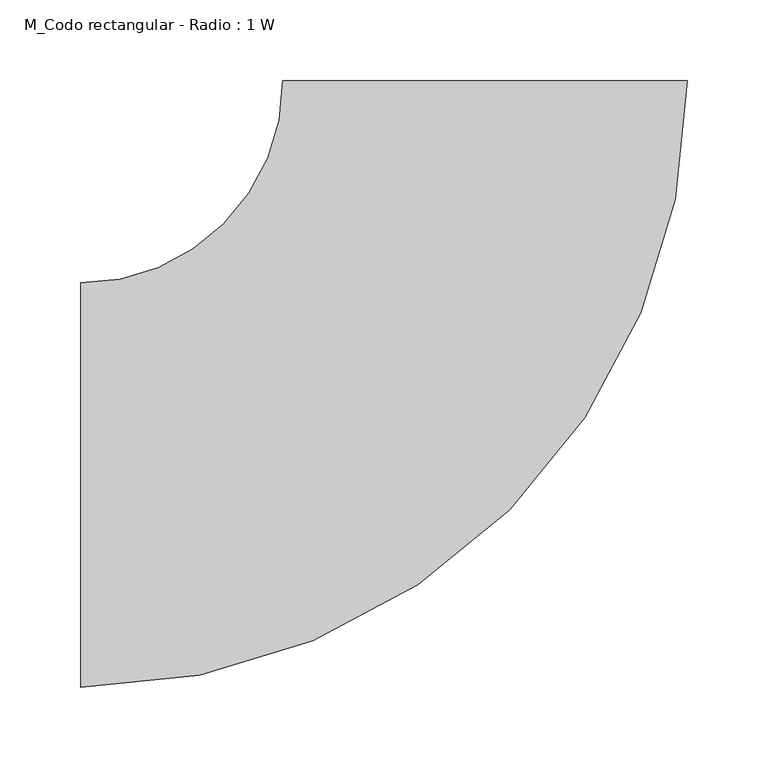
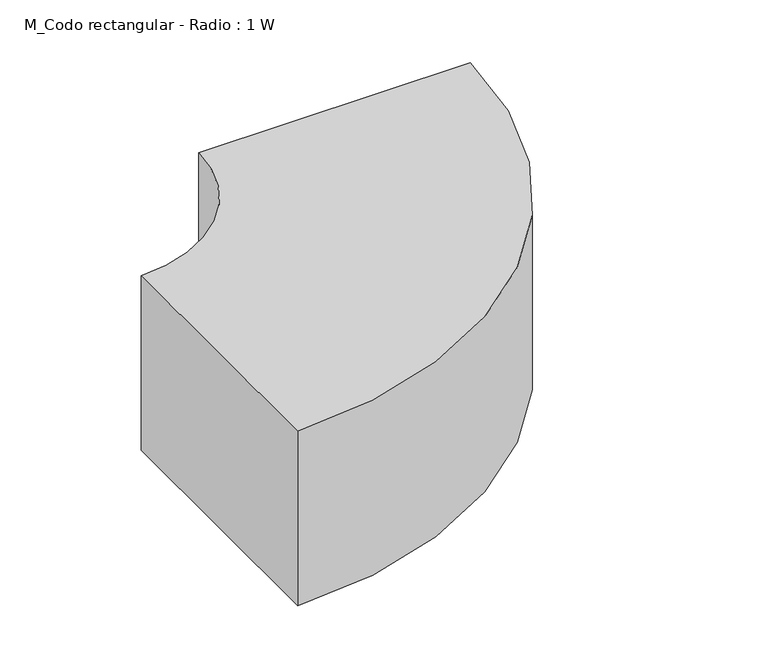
"""IFC4 building model written with IfcOpenShell, lengths in millimetres: duct fitting geometry, M_Codo rectangular - Radio : 1 W."""

from ifc_helpers import new_model, si_unit, point, frame, frame_2d, origin, place, context, project, spatial, polyline, circle_curve, trimmed, segment, composite_curve, outline, extrude, source, transform, mapped, element, save


def m_codo_rectangular_radio_1_w_10dbc524(model_context):
    return source(origin(), model_context, "Body", "SweptSolid", [
        extrude(outline(composite_curve([segment(trimmed(circle_curve(frame_2d((-250.0, 250.0)), 375.0), [point((125.0, 250.0))], [point((-250.0, -125.0))], False, "CARTESIAN"), True, "CONTINUOUS"), segment(polyline([(-250.0, -125.0), (-250.0, 125.0)]), True, "CONTINUOUS"), segment(trimmed(circle_curve(frame_2d((-250.0, 250.0)), 125.0), [point((-250.0, 125.0))], [point((-125.0, 250.0))], True, "CARTESIAN"), True, "CONTINUOUS"), segment(polyline([(-125.0, 250.0), (125.0, 250.0)]), True, "CONTINUOUS")], self_intersect=False)), frame((0.0, 0.0, -85.0), z_axis=(0.0, 0.0, 1.0), x_axis=(1.0, 0.0, 0.0)), (0.0, 0.0, 1.0), 170.0),
    ])


if __name__ == "__main__":
    model = new_model("IFC4")
    model_context = context("Model", 3, world=origin())
    ifc_project = project(units=[si_unit("LENGTHUNIT", "METRE", prefix="MILLI")], contexts=[model_context])
    site = spatial("IfcSite", under=ifc_project)
    building = spatial("IfcBuilding", under=site)
    placement = place(None, origin())
    m_codo_rectangular_radio_1_w_shape = m_codo_rectangular_radio_1_w_10dbc524(model_context)
    element("IfcDuctFitting", 1, ObjectType="M_Codo rectangular - Radio : 1 W", at=placement, inside=building, context=model_context, shape_type="MappedRepresentation", body=[
        mapped(m_codo_rectangular_radio_1_w_shape, transform((0.0, 0.0, 0.0), x_axis=(1.0, 0.0, 0.0), y_axis=(0.0, 1.0, 0.0), z_axis=(0.0, 0.0, 1.0))),
    ])
    save(model, "model.ifc")
